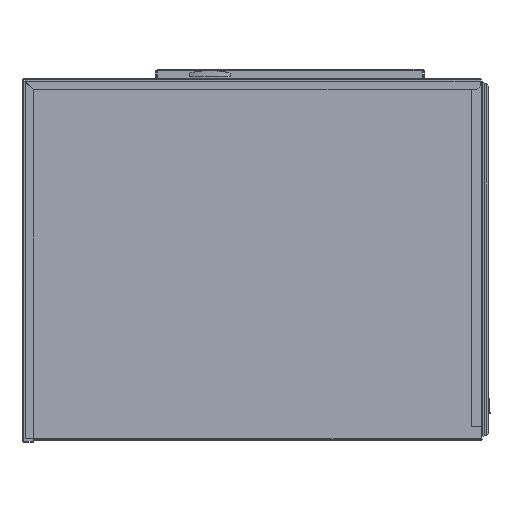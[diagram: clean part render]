
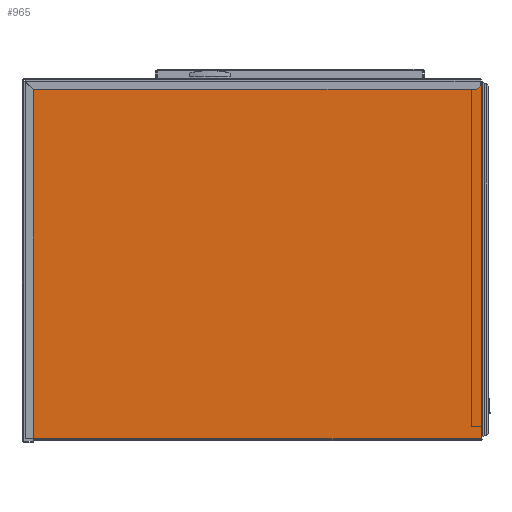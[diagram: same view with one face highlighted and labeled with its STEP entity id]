
A CAD part, left-side view. The second image highlights one B-rep face of the part: STEP entity #965.
In plain terms, the highlighted planar face has unit normal (-1, 0, 0).
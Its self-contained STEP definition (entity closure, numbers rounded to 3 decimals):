
#965=ADVANCED_FACE('',(#2224),#17106,.T.);
#2224=FACE_OUTER_BOUND('',#3479,.T.);
#3479=EDGE_LOOP('',(#8557,#8558,#8559,#8560,#8561,#8562,#8563));
#8557=ORIENTED_EDGE('',*,*,#11545,.F.);
#8558=ORIENTED_EDGE('',*,*,#11493,.F.);
#8559=ORIENTED_EDGE('',*,*,#11546,.F.);
#8560=ORIENTED_EDGE('',*,*,#11547,.F.);
#8561=ORIENTED_EDGE('',*,*,#11548,.F.);
#8562=ORIENTED_EDGE('',*,*,#11549,.F.);
#8563=ORIENTED_EDGE('',*,*,#11544,.F.);
#11493=EDGE_CURVE('',#16084,#16083,#14218,.T.);
#11544=EDGE_CURVE('',#16108,#16109,#14269,.T.);
#11545=EDGE_CURVE('',#16083,#16108,#14270,.T.);
#11546=EDGE_CURVE('',#16110,#16084,#14271,.T.);
#11547=EDGE_CURVE('',#16111,#16110,#14272,.T.);
#11548=EDGE_CURVE('',#16112,#16111,#14273,.T.);
#11549=EDGE_CURVE('',#16109,#16112,#14274,.T.);
#14218=B_SPLINE_CURVE_WITH_KNOTS('',3,(#32219,#32220,#32221,#32222),
 .UNSPECIFIED.,.F.,.F.,(4,4),(0.,406.45),.UNSPECIFIED.);
#14269=B_SPLINE_CURVE_WITH_KNOTS('',3,(#32483,#32484,#32485,#32486),
 .UNSPECIFIED.,.F.,.F.,(4,4),(-378.5,0.),.UNSPECIFIED.);
#14270=B_SPLINE_CURVE_WITH_KNOTS('',3,(#32487,#32488,#32489,#32490),
 .UNSPECIFIED.,.F.,.F.,(4,4),(-318.5,0.),.UNSPECIFIED.);
#14271=B_SPLINE_CURVE_WITH_KNOTS('',3,(#32491,#32492,#32493,#32494),
 .UNSPECIFIED.,.F.,.F.,(4,4),(-10.7,0.),.UNSPECIFIED.);
#14272=B_SPLINE_CURVE_WITH_KNOTS('',3,(#32495,#32496,#32497,#32498),
 .UNSPECIFIED.,.F.,.F.,(4,4),(-308.3,0.),.UNSPECIFIED.);
#14273=B_SPLINE_CURVE_WITH_KNOTS('',3,(#32499,#32500,#32501,#32502),
 .UNSPECIFIED.,.F.,.F.,(4,4),(-27.95,0.),.UNSPECIFIED.);
#14274=B_SPLINE_CURVE_WITH_KNOTS('',3,(#32503,#32504,#32505,#32506),
 .UNSPECIFIED.,.F.,.F.,(4,4),(-0.5,0.),.UNSPECIFIED.);
#16083=VERTEX_POINT('',#31999);
#16084=VERTEX_POINT('',#32000);
#16108=VERTEX_POINT('',#32024);
#16109=VERTEX_POINT('',#32025);
#16110=VERTEX_POINT('',#32026);
#16111=VERTEX_POINT('',#32027);
#16112=VERTEX_POINT('',#32028);
#17106=PLANE('',#18063);
#18063=AXIS2_PLACEMENT_3D('',#31819,#19032,$);
#19032=DIRECTION('',(-1.,0.,0.));
#31819=CARTESIAN_POINT('',(-319.75,-250.442,218.898));
#31999=CARTESIAN_POINT('',(-319.75,196.653,-132.002));
#32000=CARTESIAN_POINT('',(-319.75,-209.797,-132.002));
#32024=CARTESIAN_POINT('',(-319.75,196.653,186.498));
#32025=CARTESIAN_POINT('',(-319.75,-181.847,186.498));
#32026=CARTESIAN_POINT('',(-319.75,-209.797,-121.302));
#32027=CARTESIAN_POINT('',(-319.75,-209.797,186.998));
#32028=CARTESIAN_POINT('',(-319.75,-181.847,186.998));
#32219=CARTESIAN_POINT('',(-319.75,-209.797,-132.002));
#32220=CARTESIAN_POINT('',(-319.75,-74.313,-132.002));
#32221=CARTESIAN_POINT('',(-319.75,61.17,-132.002));
#32222=CARTESIAN_POINT('',(-319.75,196.653,-132.002));
#32483=CARTESIAN_POINT('',(-319.75,196.653,186.498));
#32484=CARTESIAN_POINT('',(-319.75,70.487,186.498));
#32485=CARTESIAN_POINT('',(-319.75,-55.68,186.498));
#32486=CARTESIAN_POINT('',(-319.75,-181.847,186.498));
#32487=CARTESIAN_POINT('',(-319.75,196.653,-132.002));
#32488=CARTESIAN_POINT('',(-319.75,196.653,-25.835));
#32489=CARTESIAN_POINT('',(-319.75,196.653,80.331));
#32490=CARTESIAN_POINT('',(-319.75,196.653,186.498));
#32491=CARTESIAN_POINT('',(-319.75,-209.797,-121.302));
#32492=CARTESIAN_POINT('',(-319.75,-209.797,-124.869));
#32493=CARTESIAN_POINT('',(-319.75,-209.797,-128.435));
#32494=CARTESIAN_POINT('',(-319.75,-209.797,-132.002));
#32495=CARTESIAN_POINT('',(-319.75,-209.797,186.998));
#32496=CARTESIAN_POINT('',(-319.75,-209.797,84.231));
#32497=CARTESIAN_POINT('',(-319.75,-209.797,-18.535));
#32498=CARTESIAN_POINT('',(-319.75,-209.797,-121.302));
#32499=CARTESIAN_POINT('',(-319.75,-181.847,186.998));
#32500=CARTESIAN_POINT('',(-319.75,-191.163,186.998));
#32501=CARTESIAN_POINT('',(-319.75,-200.48,186.998));
#32502=CARTESIAN_POINT('',(-319.75,-209.797,186.998));
#32503=CARTESIAN_POINT('',(-319.75,-181.847,186.498));
#32504=CARTESIAN_POINT('',(-319.75,-181.847,186.665));
#32505=CARTESIAN_POINT('',(-319.75,-181.847,186.831));
#32506=CARTESIAN_POINT('',(-319.75,-181.847,186.998));
